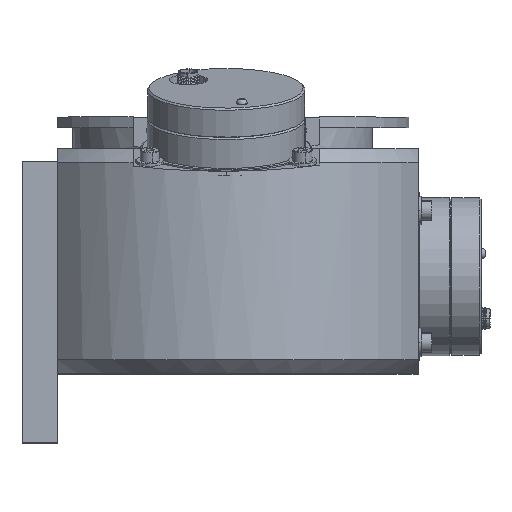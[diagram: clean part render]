
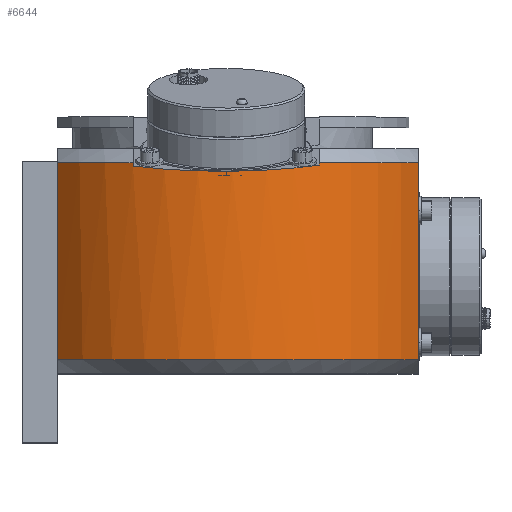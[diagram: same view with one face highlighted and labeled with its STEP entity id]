
A CAD part, top view. The second image highlights one B-rep face of the part: STEP entity #6644.
In plain terms, the highlighted cylindrical face has radius 61 mm (diameter 122 mm), a partial arc.
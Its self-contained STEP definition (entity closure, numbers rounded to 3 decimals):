
#2362 = CARTESIAN_POINT ( 'NONE',  ( 55.7, 60., 24.87 ) ) ;
#2364 = CARTESIAN_POINT ( 'NONE',  ( -25.44, 60., 55.442 ) ) ;
#2367 = CARTESIAN_POINT ( 'NONE',  ( 27.56, 60., 54.419 ) ) ;
#2369 = CARTESIAN_POINT ( 'NONE',  ( -25.44, 58.999, 55.442 ) ) ;
#2371 = CARTESIAN_POINT ( 'NONE',  ( -47., 60., 38.884 ) ) ;
#2373 = CARTESIAN_POINT ( 'NONE',  ( -47., 4., 38.884 ) ) ;
#2375 = CARTESIAN_POINT ( 'NONE',  ( 55.7, 4., 24.87 ) ) ;
#2378 = CARTESIAN_POINT ( 'NONE',  ( 27.56, 59.273, 54.419 ) ) ;
#3186 = ORIENTED_EDGE ( 'NONE', *, *, #3898, .F. ) ;
#3187 = ORIENTED_EDGE ( 'NONE', *, *, #3897, .F. ) ;
#3188 = ORIENTED_EDGE ( 'NONE', *, *, #3899, .F. ) ;
#3189 = ORIENTED_EDGE ( 'NONE', *, *, #3900, .T. ) ;
#3190 = ORIENTED_EDGE ( 'NONE', *, *, #3901, .F. ) ;
#3191 = ORIENTED_EDGE ( 'NONE', *, *, #3902, .F. ) ;
#3192 = ORIENTED_EDGE ( 'NONE', *, *, #3903, .T. ) ;
#3193 = ORIENTED_EDGE ( 'NONE', *, *, #3904, .F. ) ;
#3897 = EDGE_CURVE ( 'NONE', #10662, #10655, #16600, .T. ) ;
#3898 = EDGE_CURVE ( 'NONE', #10655, #10660, #7357, .T. ) ;
#3899 = EDGE_CURVE ( 'NONE', #10664, #10662, #7362, .T. ) ;
#3900 = EDGE_CURVE ( 'NONE', #10664, #10666, #16605, .T. ) ;
#3901 = EDGE_CURVE ( 'NONE', #10653, #10666, #7366, .T. ) ;
#3902 = EDGE_CURVE ( 'NONE', #10658, #10653, #16612, .T. ) ;
#3903 = EDGE_CURVE ( 'NONE', #10658, #10669, #7373, .T. ) ;
#3904 = EDGE_CURVE ( 'NONE', #10660, #10669, #14786, .T. ) ;
#6644 = ADVANCED_FACE ( 'NONE', ( #18300 ), #18299, .T. ) ;
#7353 = CARTESIAN_POINT ( 'NONE',  ( -25.44, 73., 55.442 ) ) ;
#7356 = CARTESIAN_POINT ( 'NONE',  ( 55.7, 73., 24.87 ) ) ;
#7357 = LINE ( 'NONE', #7353, #16601 ) ;
#7358 = CARTESIAN_POINT ( 'NONE',  ( 0., 60., 0. ) ) ;
#7359 = DIRECTION ( 'NONE',  ( 0., 1., 0. ) ) ;
#7360 = DIRECTION ( 'NONE',  ( -1., 0., 0. ) ) ;
#7361 = DIRECTION ( 'NONE',  ( 0., -1., 0. ) ) ;
#7362 = LINE ( 'NONE', #7363, #16603 ) ;
#7363 = CARTESIAN_POINT ( 'NONE',  ( -47., 73., 38.884 ) ) ;
#7364 = DIRECTION ( 'NONE',  ( 0., 1., 0. ) ) ;
#7365 = CARTESIAN_POINT ( 'NONE',  ( 27.56, 73., 54.419 ) ) ;
#7366 = LINE ( 'NONE', #7356, #16591 ) ;
#7367 = CARTESIAN_POINT ( 'NONE',  ( 0., 4., 0. ) ) ;
#7368 = DIRECTION ( 'NONE',  ( 0., 1., 0. ) ) ;
#7369 = DIRECTION ( 'NONE',  ( -1., 0., 0. ) ) ;
#7370 = DIRECTION ( 'NONE',  ( 0., -1., 0. ) ) ;
#7371 = CARTESIAN_POINT ( 'NONE',  ( -8.241, 56.885, 63.334 ) ) ;
#7372 = CARTESIAN_POINT ( 'NONE',  ( -25.44, 58.999, 55.442 ) ) ;
#7373 = LINE ( 'NONE', #7365, #16608 ) ;
#7374 = CARTESIAN_POINT ( 'NONE',  ( 0., 60., 0. ) ) ;
#7375 = DIRECTION ( 'NONE',  ( 0., 1., 0. ) ) ;
#7376 = DIRECTION ( 'NONE',  ( -1., 0., 0. ) ) ;
#7377 = DIRECTION ( 'NONE',  ( 0., -1., 0. ) ) ;
#7378 = CARTESIAN_POINT ( 'NONE',  ( 10.678, 56.982, 62.969 ) ) ;
#7379 = CARTESIAN_POINT ( 'NONE',  ( 27.56, 59.273, 54.419 ) ) ;
#10653 = VERTEX_POINT ( 'NONE', #2362 ) ;
#10655 = VERTEX_POINT ( 'NONE', #2364 ) ;
#10658 = VERTEX_POINT ( 'NONE', #2367 ) ;
#10660 = VERTEX_POINT ( 'NONE', #2369 ) ;
#10662 = VERTEX_POINT ( 'NONE', #2371 ) ;
#10664 = VERTEX_POINT ( 'NONE', #2373 ) ;
#10666 = VERTEX_POINT ( 'NONE', #2375 ) ;
#10669 = VERTEX_POINT ( 'NONE', #2378 ) ;
#14786 =( BOUNDED_CURVE ( )  B_SPLINE_CURVE ( 3, ( #7372, #7371, #7378, #7379 ),
 .UNSPECIFIED., .F., .T. ) 
 B_SPLINE_CURVE_WITH_KNOTS ( ( 4, 4 ),
 ( 2.711, 3.61 ),
 .UNSPECIFIED. ) 
 CURVE ( )  GEOMETRIC_REPRESENTATION_ITEM ( )  RATIONAL_B_SPLINE_CURVE ( ( 1., 0.934, 0.934, 1. ) ) 
 REPRESENTATION_ITEM ( '' )  );
#16591 = VECTOR ( 'NONE', #7370, 1000. ) ;
#16598 = AXIS2_PLACEMENT_3D ( 'NONE', #7358, #7359, #7360 ) ;
#16600 = CIRCLE ( 'NONE', #16598, 61. ) ;
#16601 = VECTOR ( 'NONE', #7361, 1000. ) ;
#16603 = VECTOR ( 'NONE', #7364, 1000. ) ;
#16605 = CIRCLE ( 'NONE', #16610, 61. ) ;
#16608 = VECTOR ( 'NONE', #7377, 1000. ) ;
#16610 = AXIS2_PLACEMENT_3D ( 'NONE', #7367, #7368, #7369 ) ;
#16612 = CIRCLE ( 'NONE', #16614, 61. ) ;
#16614 = AXIS2_PLACEMENT_3D ( 'NONE', #7374, #7375, #7376 ) ;
#18298 = DIRECTION ( 'NONE',  ( 0., 1., 0. ) ) ;
#18299 = CYLINDRICAL_SURFACE ( 'NONE', #19095, 61. ) ;
#18300 = FACE_OUTER_BOUND ( 'NONE', #18463, .T. ) ;
#18301 = CARTESIAN_POINT ( 'NONE',  ( 0., 73., 0. ) ) ;
#18302 = DIRECTION ( 'NONE',  ( -1., 0., 0. ) ) ;
#18463 = EDGE_LOOP ( 'NONE', ( #3186, #3187, #3188, #3189, #3190, #3191, #3192, #3193 ) ) ;
#19095 = AXIS2_PLACEMENT_3D ( 'NONE', #18301, #18298, #18302 ) ;
